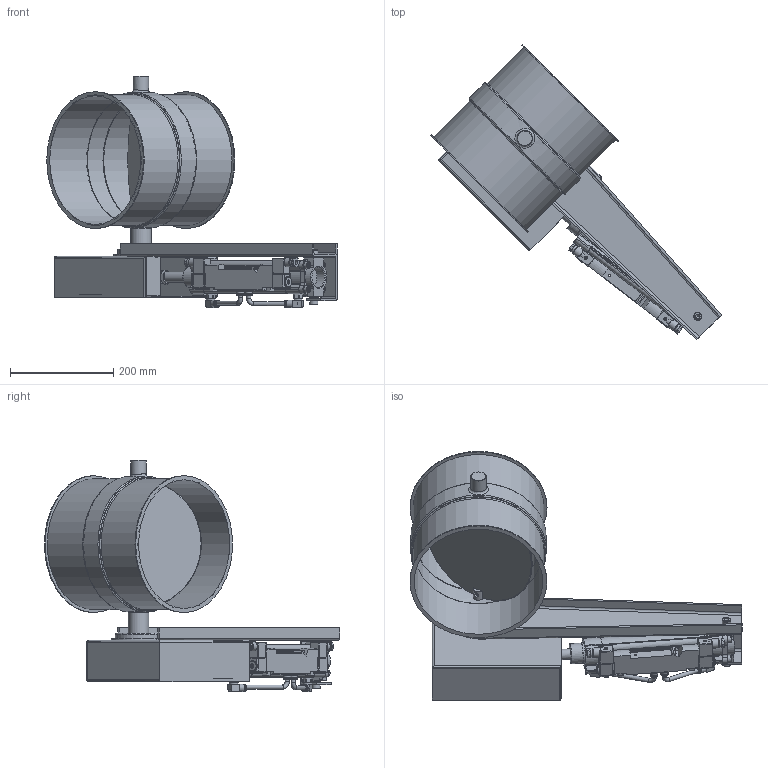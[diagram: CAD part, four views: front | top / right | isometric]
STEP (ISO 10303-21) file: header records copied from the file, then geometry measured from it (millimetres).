
FILE_DESCRIPTION((''),'2;1');
FILE_NAME('U:\Wolfgang\Marcel-3D\fertig\Kapitel 8\2521210.stp','2012-01-13T11:14:37',('iwienholt'),(''),'Autodesk Inventor 2010','Autodesk Inventor 2010','');
FILE_SCHEMA(('AUTOMOTIVE_DESIGN { 1 0 10303 214 1 1 1 1 }'));
Length unit declared in the file: millimetre
Products named in the file (33): 2521210; BuchseD20 90-50; Bolzen D20; Scheibe250b; F1 Zylindereinheit d20; 4527_MSFG_24_42_50_60_6_0; 4527_MSFG_24_42_50_60_6_01; 4527_MSFG_24_42_50_60_6_02; 537600_VUVB_S_B42_ZD_Q8_3AC1_6_0; 537600_VUVB_S_B42_ZD_Q8_3AC1_6_01; 537600_VUVB_S_B42_ZD_Q8_3AC1_6_02; 537600_VUVB_S_B42_ZD_Q8_3AC1_6_03; 153414_QSRL_1_4_8_6_0; schlauch; Schutzkasten; Kasten-a; Kasten-b; 532756_DNCB_50_160_PPV_A_6_0; 532756_DNCB_50_160_PPV_A_6_01; 532756_DNCB_50_160_PPV_A_6_02; 6146_SG_M16x15_6_0; 6146_SG_M16x15_6_01; 6146_SG_M16x15_6_02; 174413_ZNCF_50_6_0; 174413_ZNCF_50_6_01; 174413_ZNCF_50_6_02; 174413_ZNCF_50_6_03; 174413_ZNCF_50_6_04; 174413_ZNCF_50_6_05; 0021088 d20; Strebe d20; Bolzen20; 2521210-1
Assembly tree (36 placements, depth 4):
  2521210
    BuchseD20 90-50
    Bolzen D20  x2
    Scheibe250b
    F1 Zylindereinheit d20
      4527_MSFG_24_42_50_60_6_0  x2
        4527_MSFG_24_42_50_60_6_01
        4527_MSFG_24_42_50_60_6_02
      537600_VUVB_S_B42_ZD_Q8_3AC1_6_0
        537600_VUVB_S_B42_ZD_Q8_3AC1_6_01
        537600_VUVB_S_B42_ZD_Q8_3AC1_6_02
        537600_VUVB_S_B42_ZD_Q8_3AC1_6_03
      153414_QSRL_1_4_8_6_0  x2
      schlauch  x2
      Schutzkasten
        Kasten-a
        Kasten-b
      532756_DNCB_50_160_PPV_A_6_0
        532756_DNCB_50_160_PPV_A_6_01
        532756_DNCB_50_160_PPV_A_6_02
      6146_SG_M16x15_6_0
        6146_SG_M16x15_6_01
        6146_SG_M16x15_6_02
      174413_ZNCF_50_6_0
        174413_ZNCF_50_6_01
        174413_ZNCF_50_6_02
        174413_ZNCF_50_6_03
        174413_ZNCF_50_6_04
        174413_ZNCF_50_6_05
      0021088 d20
      Strebe d20
      Bolzen20
    2521210-1
Bounding box: 562.15 x 571.35 x 447.27 mm (x, y, z)
Volume: 2485425.2 mm3; surface area: 1325236.2 mm2
Topology: 30 solids, 30 shells, 2528 faces, 6777 edges, 4426 vertices
Faces by surface type: plane 1901, cylinder 434, cone 146, bspline 31, torus 14, sphere 2
Full cylindrical faces by diameter (mm): 1 x6, 2.459 x2, 3 x4, 3.5 x2, 4 x2, 4.5 x1, 5 x4, 5.471 x2, 5.5 x2, 6 x16, 6.647 x8, 7.188 x2, 8 x22, 8.05 x2, 9 x6, 9.6 x2, 10 x2, 10.15 x2, 11.445 x2, 12 x2, 13 x4, 13.05 x2, 13.157 x2, 13.346 x1, 14 x6, 14.376 x2, 14.4 x4, 14.5 x2, 14.7 x6, 15.1 x2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
Entity records: 72887 total; most frequent: CARTESIAN_POINT 14197, ORIENTED_EDGE 11722, DIRECTION 11272, EDGE_CURVE 5861, VECTOR 4782, LINE 4782, VERTEX_POINT 3979, EDGE_LOOP 3282
